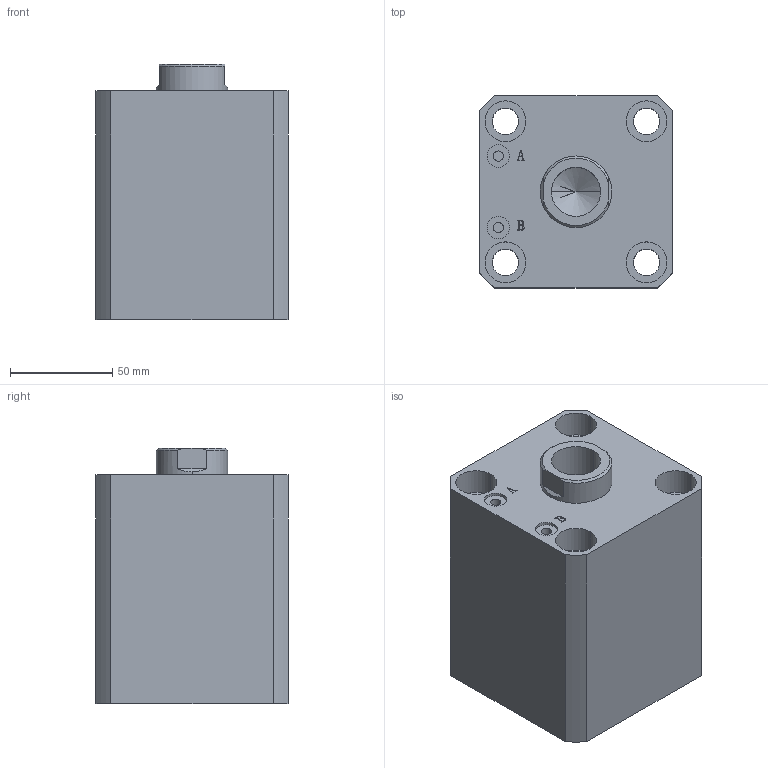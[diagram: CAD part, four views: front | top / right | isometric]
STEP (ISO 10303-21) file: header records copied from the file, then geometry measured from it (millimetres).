
FILE_DESCRIPTION (( 'STEP AP203' ), '1' );
FILE_NAME ('HTB-SDMA63-45N.STEP', '2019-10-08T01:07:48', ( '微软用户' ), ( '微软中国' ), 'SwSTEP 2.0', 'SolidWorks 2012', '' );
FILE_SCHEMA (( 'CONFIG_CONTROL_DESIGN' ));
Length unit declared in the file: millimetre
Products named in the file (3): HTB-SDMA63-45N; HTB-SDMA63-45N活塞杆; HTB-SDMA63-45掛极
Assembly tree (2 placements, depth 2):
  HTB-SDMA63-45N
    HTB-SDMA63-45掛极
    HTB-SDMA63-45N活塞杆
Bounding box: 94 x 94 x 125 mm (x, y, z)
Volume: 795772.5 mm3; surface area: 120781.8 mm2
Topology: 2 solids, 2 shells, 137 faces, 331 edges, 217 vertices
Faces by surface type: plane 65, cylinder 46, bspline 16, torus 6, cone 4
Entity records: 5070 total; most frequent: CARTESIAN_POINT 1576, ORIENTED_EDGE 658, DIRECTION 647, EDGE_CURVE 329, AXIS2_PLACEMENT_3D 232, VERTEX_POINT 217, LINE 183, VECTOR 183
